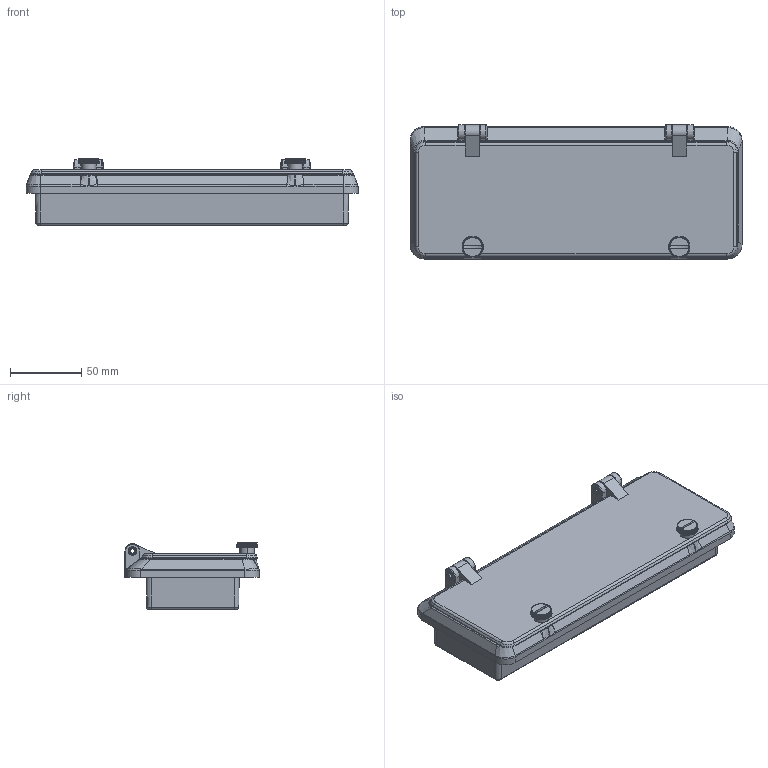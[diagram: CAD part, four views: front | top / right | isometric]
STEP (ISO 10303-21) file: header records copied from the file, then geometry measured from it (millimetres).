
FILE_DESCRIPTION((''),'2;1');
FILE_NAME('40981','2018-07-17T',('prakek'),('MENNEKES'),'PRO/ENGINEER BY PARAMETRIC TECHNOLOGY CORPORATION, 2015440','PRO/ENGINEER BY PARAMETRIC TECHNOLOGY CORPORATION, 2015440','');
FILE_SCHEMA(('AUTOMOTIVE_DESIGN { 1 0 10303 214 1 1 1 1 }'));
Products named in the file (1): 40981
Bounding box: 233 x 94.05 x 47 mm (x, y, z)
Volume: 217049.7 mm3; surface area: 131409.9 mm2
Topology: 1 solids, 1 shells, 1832 faces, 5042 edges, 3193 vertices
Faces by surface type: plane 806, cylinder 596, cone 284, torus 76, bspline 56, sphere 14
Entity records: 78915 total; most frequent: CARTESIAN_POINT 21314, ORIENTED_EDGE 10076, DIRECTION 8193, EDGE_CURVE 5038, VERTEX_POINT 3193, AXIS2_PLACEMENT_3D 2801, VECTOR 2591, LINE 2591
